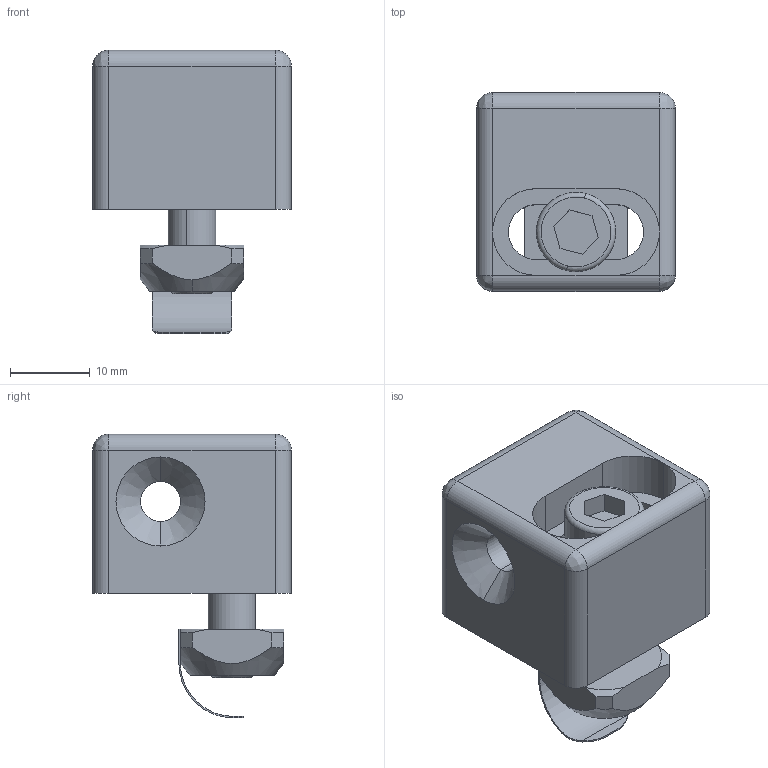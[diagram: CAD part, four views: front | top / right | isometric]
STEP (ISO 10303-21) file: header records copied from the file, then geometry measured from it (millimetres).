
FILE_DESCRIPTION (( 'STEP AP214' ), '1' );
FILE_NAME ('1.3040 Monikiinnike 45.STEP', '2025-09-09T10:48:15', ( '' ), ( '' ), 'SwSTEP 2.0', 'SolidWorks 2025', '' );
FILE_SCHEMA (( 'AUTOMOTIVE_DESIGN' ));
Length unit declared in the file: millimetre
Products named in the file (1): 1.3040 Monikiinnike 45
Bounding box: 25 x 25 x 35.65 mm (x, y, z)
Volume: 10689.5 mm3; surface area: 5713.4 mm2
Topology: 3 solids, 3 shells, 92 faces, 218 edges, 130 vertices
Faces by surface type: plane 44, cylinder 26, cone 14, bspline 4, torus 4
Entity records: 3809 total; most frequent: CARTESIAN_POINT 662, DIRECTION 440, ORIENTED_EDGE 428, EDGE_CURVE 214, AXIS2_PLACEMENT_3D 164, VERTEX_POINT 130, VECTOR 112, LINE 112
